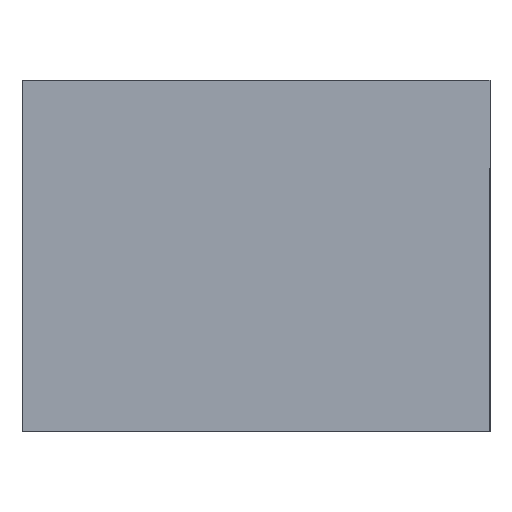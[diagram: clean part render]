
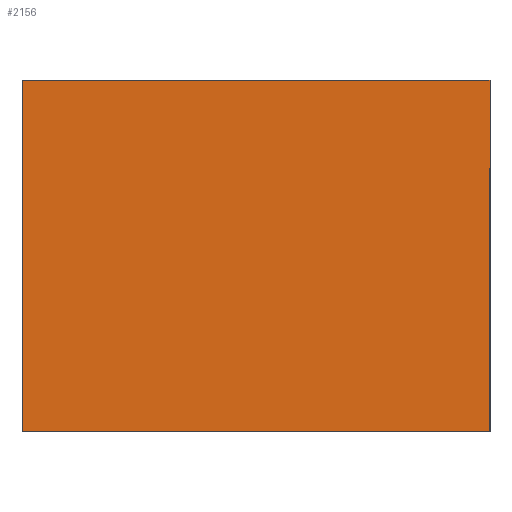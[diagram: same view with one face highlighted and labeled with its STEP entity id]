
A CAD part, front view. The second image highlights one B-rep face of the part: STEP entity #2156.
In plain terms, the highlighted planar face has unit normal (0, -1, 0).
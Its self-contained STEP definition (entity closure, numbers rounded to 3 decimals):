
#77 = LINE ( 'NONE', #1763, #110 ) ;
#98 = FACE_OUTER_BOUND ( 'NONE', #1455, .T. ) ;
#110 = VECTOR ( 'NONE', #1958, 1000. ) ;
#187 = VERTEX_POINT ( 'NONE', #1032 ) ;
#235 = PLANE ( 'NONE',  #2312 ) ;
#271 = CARTESIAN_POINT ( 'NONE',  ( 0., 0., 0. ) ) ;
#392 = DIRECTION ( 'NONE',  ( 0., 0., 1. ) ) ;
#424 = DIRECTION ( 'NONE',  ( 0., 1., 0. ) ) ;
#670 = LINE ( 'NONE', #2235, #1701 ) ;
#708 = CARTESIAN_POINT ( 'NONE',  ( 50., 0., -37.5 ) ) ;
#756 = LINE ( 'NONE', #1039, #1159 ) ;
#808 = CARTESIAN_POINT ( 'NONE',  ( -50., 0., -37.5 ) ) ;
#831 = DIRECTION ( 'NONE',  ( -1., 0., 0. ) ) ;
#840 = DIRECTION ( 'NONE',  ( 0., 0., -1. ) ) ;
#849 = DIRECTION ( 'NONE',  ( 0., 0., 1. ) ) ;
#856 = VECTOR ( 'NONE', #392, 1000. ) ;
#913 = ORIENTED_EDGE ( 'NONE', *, *, #2520, .F. ) ;
#1032 = CARTESIAN_POINT ( 'NONE',  ( 50., 0., 37.5 ) ) ;
#1039 = CARTESIAN_POINT ( 'NONE',  ( 50., 0., -37.5 ) ) ;
#1078 = VERTEX_POINT ( 'NONE', #1175 ) ;
#1159 = VECTOR ( 'NONE', #840, 1000. ) ;
#1175 = CARTESIAN_POINT ( 'NONE',  ( -50., 0., 37.5 ) ) ;
#1269 = ORIENTED_EDGE ( 'NONE', *, *, #1453, .F. ) ;
#1319 = EDGE_CURVE ( 'NONE', #187, #2215, #756, .T. ) ;
#1453 = EDGE_CURVE ( 'NONE', #2215, #1939, #670, .T. ) ;
#1455 = EDGE_LOOP ( 'NONE', ( #1893, #1486, #913, #1269 ) ) ;
#1483 = CARTESIAN_POINT ( 'NONE',  ( -50., 0., -37.5 ) ) ;
#1486 = ORIENTED_EDGE ( 'NONE', *, *, #2494, .F. ) ;
#1701 = VECTOR ( 'NONE', #831, 1000. ) ;
#1763 = CARTESIAN_POINT ( 'NONE',  ( -50., 0., 37.5 ) ) ;
#1893 = ORIENTED_EDGE ( 'NONE', *, *, #1319, .F. ) ;
#1939 = VERTEX_POINT ( 'NONE', #808 ) ;
#1958 = DIRECTION ( 'NONE',  ( 1., 0., 0. ) ) ;
#2156 = ADVANCED_FACE ( 'NONE', ( #98 ), #235, .F. ) ;
#2215 = VERTEX_POINT ( 'NONE', #708 ) ;
#2235 = CARTESIAN_POINT ( 'NONE',  ( -50., 0., -37.5 ) ) ;
#2312 = AXIS2_PLACEMENT_3D ( 'NONE', #271, #424, #849 ) ;
#2448 = LINE ( 'NONE', #1483, #856 ) ;
#2494 = EDGE_CURVE ( 'NONE', #1078, #187, #77, .T. ) ;
#2520 = EDGE_CURVE ( 'NONE', #1939, #1078, #2448, .T. ) ;
